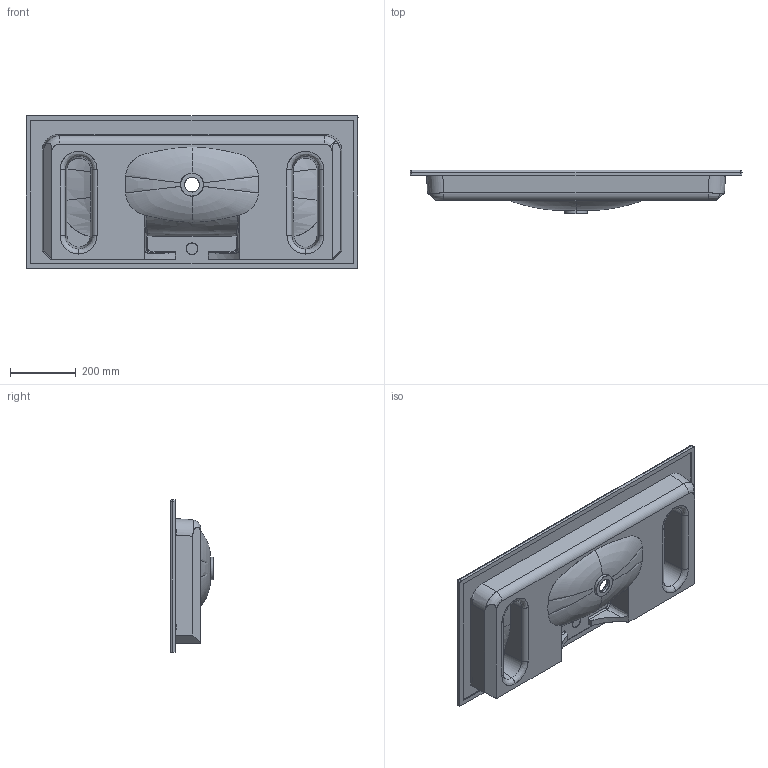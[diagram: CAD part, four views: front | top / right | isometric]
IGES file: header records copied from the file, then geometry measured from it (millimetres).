
Start section: SolidWorks IGES file using NURBS representation for surfaces
Global section: file name: C:\Users\User\Desktop\Soft\lavabi definitivi soft 46\soft 1010 x 465\definitivo soft 1010 x 465.IGS; native system: SolidWorks 2016; preprocessor: SolidWorks 2016; author: User; date: 200312.231612; units: millimetre
Bounding box: 1010 x 132 x 465 mm (x, y, z)
Surface area: 1318573.9 mm2 (no closed solid volume)
Topology: 0 solids, 0 shells, 132 faces, 2223 edges, 2221 vertices
Faces by surface type: bspline 132
